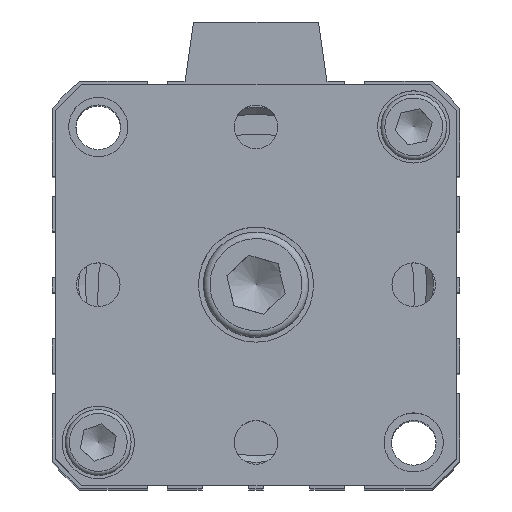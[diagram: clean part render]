
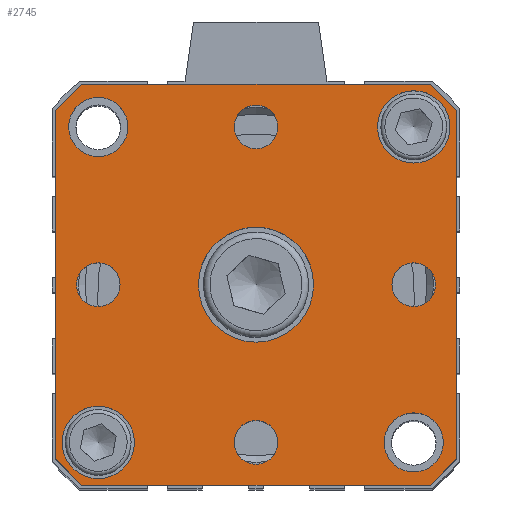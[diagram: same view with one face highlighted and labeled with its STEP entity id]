
A CAD part, top view. The second image highlights one B-rep face of the part: STEP entity #2745.
In plain terms, the highlighted planar face has unit normal (0, 0, 1).
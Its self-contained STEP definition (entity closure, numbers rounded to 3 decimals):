
#365=CARTESIAN_POINT('',(-37.557,28.294,136.6));
#366=VERTEX_POINT('',#365);
#367=CARTESIAN_POINT('',(-33.557,32.294,136.6));
#368=VERTEX_POINT('',#367);
#369=CARTESIAN_POINT('',(-37.557,28.294,136.6));
#370=DIRECTION('',(0.707,0.707,0.0));
#371=VECTOR('',#370,5.657);
#372=LINE('',#369,#371);
#373=EDGE_CURVE('',#366,#368,#372,.T.);
#417=CARTESIAN_POINT('',(19.443,32.294,136.6));
#418=VERTEX_POINT('',#417);
#419=CARTESIAN_POINT('',(-33.557,32.294,136.6));
#420=DIRECTION('',(1.0,0.0,0.0));
#421=VECTOR('',#420,53.);
#422=LINE('',#419,#421);
#423=EDGE_CURVE('',#368,#418,#422,.T.);
#440=CARTESIAN_POINT('',(23.443,28.294,136.6));
#441=VERTEX_POINT('',#440);
#442=CARTESIAN_POINT('',(19.443,32.294,136.6));
#443=DIRECTION('',(0.707,-0.707,0.0));
#444=VECTOR('',#443,5.657);
#445=LINE('',#442,#444);
#446=EDGE_CURVE('',#418,#441,#445,.T.);
#464=CARTESIAN_POINT('',(23.443,-24.706,136.6));
#465=VERTEX_POINT('',#464);
#466=CARTESIAN_POINT('',(19.443,-28.706,136.6));
#467=VERTEX_POINT('',#466);
#468=CARTESIAN_POINT('',(23.443,-24.706,136.6));
#469=DIRECTION('',(-0.707,-0.707,0.0));
#470=VECTOR('',#469,5.657);
#471=LINE('',#468,#470);
#472=EDGE_CURVE('',#465,#467,#471,.T.);
#496=CARTESIAN_POINT('',(-33.557,-28.706,136.6));
#497=VERTEX_POINT('',#496);
#498=CARTESIAN_POINT('',(19.443,-28.706,136.6));
#499=DIRECTION('',(-1.0,0.0,0.0));
#500=VECTOR('',#499,53.);
#501=LINE('',#498,#500);
#502=EDGE_CURVE('',#467,#497,#501,.T.);
#519=CARTESIAN_POINT('',(-37.557,-24.706,136.6));
#520=VERTEX_POINT('',#519);
#521=CARTESIAN_POINT('',(-33.557,-28.706,136.6));
#522=DIRECTION('',(-0.707,0.707,0.0));
#523=VECTOR('',#522,5.657);
#524=LINE('',#521,#523);
#525=EDGE_CURVE('',#497,#520,#524,.T.);
#592=CARTESIAN_POINT('',(1.693,1.794,136.6));
#593=VERTEX_POINT('',#592);
#594=CARTESIAN_POINT('',(-7.057,1.794,136.6));
#595=DIRECTION('',(0.0,0.0,-1.0));
#596=DIRECTION('',(1.0,0.0,0.0));
#597=AXIS2_PLACEMENT_3D('',#594,#595,#596);
#598=CIRCLE('',#597,8.75);
#599=EDGE_CURVE('',#593,#593,#598,.T.);
#711=CARTESIAN_POINT('',(-25.557,-22.206,136.6));
#712=VERTEX_POINT('',#711);
#713=CARTESIAN_POINT('',(-31.057,-22.206,136.6));
#714=DIRECTION('',(0.0,0.0,-1.0));
#715=DIRECTION('',(1.0,0.0,0.0));
#716=AXIS2_PLACEMENT_3D('',#713,#714,#715);
#717=CIRCLE('',#716,5.5);
#718=EDGE_CURVE('',#712,#712,#717,.T.);
#813=CARTESIAN_POINT('',(22.443,25.794,136.6));
#814=VERTEX_POINT('',#813);
#815=CARTESIAN_POINT('',(16.943,25.794,136.6));
#816=DIRECTION('',(0.0,0.0,-1.0));
#817=DIRECTION('',(1.0,0.0,0.0));
#818=AXIS2_PLACEMENT_3D('',#815,#816,#817);
#819=CIRCLE('',#818,5.5);
#820=EDGE_CURVE('',#814,#814,#819,.T.);
#890=CARTESIAN_POINT('',(20.266,1.794,136.6));
#891=VERTEX_POINT('',#890);
#892=CARTESIAN_POINT('',(16.943,1.794,136.6));
#893=DIRECTION('',(0.0,0.0,-1.0));
#894=DIRECTION('',(1.0,0.0,0.0));
#895=AXIS2_PLACEMENT_3D('',#892,#893,#894);
#896=CIRCLE('',#895,3.324);
#897=EDGE_CURVE('',#891,#891,#896,.T.);
#931=CARTESIAN_POINT('',(-3.734,-22.206,136.6));
#932=VERTEX_POINT('',#931);
#933=CARTESIAN_POINT('',(-7.057,-22.206,136.6));
#934=DIRECTION('',(0.0,0.0,-1.0));
#935=DIRECTION('',(1.0,0.0,0.0));
#936=AXIS2_PLACEMENT_3D('',#933,#934,#935);
#937=CIRCLE('',#936,3.324);
#938=EDGE_CURVE('',#932,#932,#937,.T.);
#972=CARTESIAN_POINT('',(-27.734,1.794,136.6));
#973=VERTEX_POINT('',#972);
#974=CARTESIAN_POINT('',(-31.057,1.794,136.6));
#975=DIRECTION('',(0.0,0.0,-1.0));
#976=DIRECTION('',(1.0,0.0,0.0));
#977=AXIS2_PLACEMENT_3D('',#974,#975,#976);
#978=CIRCLE('',#977,3.324);
#979=EDGE_CURVE('',#973,#973,#978,.T.);
#1013=CARTESIAN_POINT('',(-3.734,25.794,136.6));
#1014=VERTEX_POINT('',#1013);
#1015=CARTESIAN_POINT('',(-7.057,25.794,136.6));
#1016=DIRECTION('',(0.0,0.0,-1.0));
#1017=DIRECTION('',(1.0,0.0,0.0));
#1018=AXIS2_PLACEMENT_3D('',#1015,#1016,#1017);
#1019=CIRCLE('',#1018,3.324);
#1020=EDGE_CURVE('',#1014,#1014,#1019,.T.);
#2634=CARTESIAN_POINT('',(21.443,-22.206,136.6));
#2635=VERTEX_POINT('',#2634);
#2636=CARTESIAN_POINT('',(16.943,-22.206,136.6));
#2637=DIRECTION('',(0.0,0.0,-1.0));
#2638=DIRECTION('',(-1.0,0.0,0.0));
#2639=AXIS2_PLACEMENT_3D('',#2636,#2637,#2638);
#2640=CIRCLE('',#2639,4.5);
#2641=EDGE_CURVE('',#2635,#2635,#2640,.T.);
#2654=CARTESIAN_POINT('',(-26.557,25.794,136.6));
#2655=VERTEX_POINT('',#2654);
#2656=CARTESIAN_POINT('',(-31.057,25.794,136.6));
#2657=DIRECTION('',(0.0,0.0,-1.0));
#2658=DIRECTION('',(-1.0,0.0,0.0));
#2659=AXIS2_PLACEMENT_3D('',#2656,#2657,#2658);
#2660=CIRCLE('',#2659,4.5);
#2661=EDGE_CURVE('',#2655,#2655,#2660,.T.);
#2675=CARTESIAN_POINT('',(23.443,28.294,136.6));
#2676=DIRECTION('',(0.0,-1.0,0.0));
#2677=VECTOR('',#2676,53.);
#2678=LINE('',#2675,#2677);
#2679=EDGE_CURVE('',#441,#465,#2678,.T.);
#2694=CARTESIAN_POINT('',(-37.557,-24.706,136.6));
#2695=DIRECTION('',(0.0,1.0,0.0));
#2696=VECTOR('',#2695,53.);
#2697=LINE('',#2694,#2696);
#2698=EDGE_CURVE('',#520,#366,#2697,.T.);
#2703=CARTESIAN_POINT('',(-7.057,1.794,136.6));
#2704=DIRECTION('',(0.0,0.0,1.0));
#2705=DIRECTION('',(1.0,0.0,0.0));
#2706=AXIS2_PLACEMENT_3D('',#2703,#2704,#2705);
#2707=PLANE('',#2706);
#2708=ORIENTED_EDGE('',*,*,#373,.F.);
#2709=ORIENTED_EDGE('',*,*,#2698,.F.);
#2710=ORIENTED_EDGE('',*,*,#525,.F.);
#2711=ORIENTED_EDGE('',*,*,#502,.F.);
#2712=ORIENTED_EDGE('',*,*,#472,.F.);
#2713=ORIENTED_EDGE('',*,*,#2679,.F.);
#2714=ORIENTED_EDGE('',*,*,#446,.F.);
#2715=ORIENTED_EDGE('',*,*,#423,.F.);
#2716=EDGE_LOOP('',(#2708,#2709,#2710,#2711,#2712,#2713,#2714,#2715));
#2717=FACE_OUTER_BOUND('',#2716,.T.);
#2718=ORIENTED_EDGE('',*,*,#599,.T.);
#2719=EDGE_LOOP('',(#2718));
#2720=FACE_BOUND('',#2719,.T.);
#2721=ORIENTED_EDGE('',*,*,#718,.T.);
#2722=EDGE_LOOP('',(#2721));
#2723=FACE_BOUND('',#2722,.T.);
#2724=ORIENTED_EDGE('',*,*,#820,.T.);
#2725=EDGE_LOOP('',(#2724));
#2726=FACE_BOUND('',#2725,.T.);
#2727=ORIENTED_EDGE('',*,*,#897,.T.);
#2728=EDGE_LOOP('',(#2727));
#2729=FACE_BOUND('',#2728,.T.);
#2730=ORIENTED_EDGE('',*,*,#938,.T.);
#2731=EDGE_LOOP('',(#2730));
#2732=FACE_BOUND('',#2731,.T.);
#2733=ORIENTED_EDGE('',*,*,#979,.T.);
#2734=EDGE_LOOP('',(#2733));
#2735=FACE_BOUND('',#2734,.T.);
#2736=ORIENTED_EDGE('',*,*,#1020,.T.);
#2737=EDGE_LOOP('',(#2736));
#2738=FACE_BOUND('',#2737,.T.);
#2739=ORIENTED_EDGE('',*,*,#2641,.T.);
#2740=EDGE_LOOP('',(#2739));
#2741=FACE_BOUND('',#2740,.T.);
#2742=ORIENTED_EDGE('',*,*,#2661,.T.);
#2743=EDGE_LOOP('',(#2742));
#2744=FACE_BOUND('',#2743,.T.);
#2745=ADVANCED_FACE('',(#2717,#2720,#2723,#2726,#2729,#2732,#2735,#2738,#2741,#2744),#2707,.T.);
